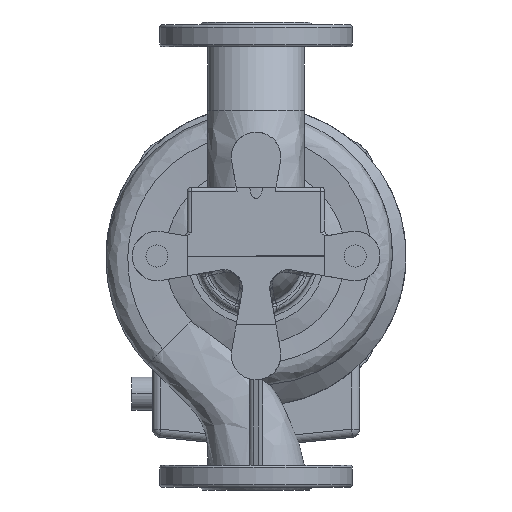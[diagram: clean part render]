
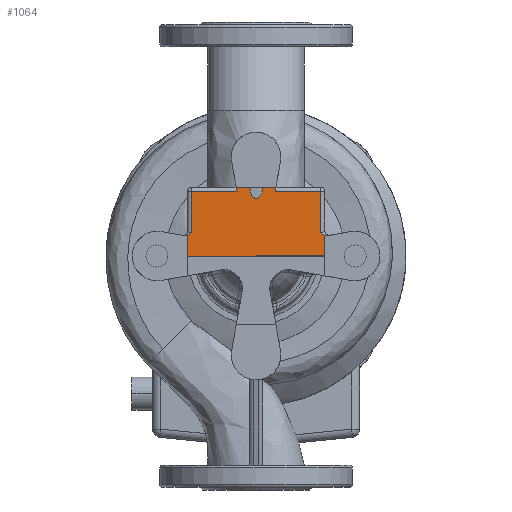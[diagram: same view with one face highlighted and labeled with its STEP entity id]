
A CAD part, front view. The second image highlights one B-rep face of the part: STEP entity #1064.
In plain terms, the highlighted planar face has unit normal (0, -1, 0).
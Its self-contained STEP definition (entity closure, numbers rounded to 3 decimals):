
#1064=ADVANCED_FACE('',(#2581),#2060,.F.);
#2060=PLANE('',#18404);
#2581=FACE_OUTER_BOUND('',#3586,.T.);
#3586=EDGE_LOOP('',(#6729,#6730,#6731,#6732,#6733,#6734,#6735,#6736,#6737,
#6738,#6739,#6740,#6741,#6742));
#5879=B_SPLINE_CURVE_WITH_KNOTS('',3,(#29481,#29482,#29483,#29484,#29485,
#29486,#29487,#29488,#29489,#29490,#29491,#29492,#29493,#29494),
 .UNSPECIFIED.,.F.,.F.,(4,2,2,2,2,2,4),(0.,0.25,0.375,0.5,
0.625,0.75,1.),.UNSPECIFIED.);
#5880=B_SPLINE_CURVE_WITH_KNOTS('',3,(#29501,#29502,#29503,#29504,#29505,
#29506,#29507,#29508,#29509,#29510,#29511,#29512,#29513),.UNSPECIFIED.,
 .F.,.F.,(4,1,2,2,2,2,4),(0.,0.125,0.187,0.25,
0.5,0.75,1.),.UNSPECIFIED.);
#5881=B_SPLINE_CURVE_WITH_KNOTS('',3,(#29521,#29522,#29523,#29524,#29525,
#29526,#29527,#29528,#29529,#29530,#29531,#29532,#29533),.UNSPECIFIED.,
 .F.,.F.,(4,2,2,1,2,2,4),(0.,0.25,0.5,0.625,
0.688,0.75,1.),.UNSPECIFIED.);
#6729=ORIENTED_EDGE('',*,*,#13574,.T.);
#6730=ORIENTED_EDGE('',*,*,#13575,.T.);
#6731=ORIENTED_EDGE('',*,*,#13566,.T.);
#6732=ORIENTED_EDGE('',*,*,#13576,.T.);
#6733=ORIENTED_EDGE('',*,*,#13570,.T.);
#6734=ORIENTED_EDGE('',*,*,#13577,.T.);
#6735=ORIENTED_EDGE('',*,*,#13578,.T.);
#6736=ORIENTED_EDGE('',*,*,#13579,.T.);
#6737=ORIENTED_EDGE('',*,*,#13580,.T.);
#6738=ORIENTED_EDGE('',*,*,#13581,.T.);
#6739=ORIENTED_EDGE('',*,*,#13582,.T.);
#6740=ORIENTED_EDGE('',*,*,#13583,.T.);
#6741=ORIENTED_EDGE('',*,*,#13584,.T.);
#6742=ORIENTED_EDGE('',*,*,#13585,.T.);
#11781=VERTEX_POINT('',#29459);
#11782=VERTEX_POINT('',#29460);
#11783=VERTEX_POINT('',#29462);
#11786=VERTEX_POINT('',#29468);
#11789=VERTEX_POINT('',#29478);
#11790=VERTEX_POINT('',#29479);
#11791=VERTEX_POINT('',#29496);
#11792=VERTEX_POINT('',#29498);
#11793=VERTEX_POINT('',#29500);
#11794=VERTEX_POINT('',#29514);
#11795=VERTEX_POINT('',#29516);
#11796=VERTEX_POINT('',#29518);
#11797=VERTEX_POINT('',#29520);
#11798=VERTEX_POINT('',#29534);
#13566=EDGE_CURVE('',#11783,#11781,#15926,.T.);
#13570=EDGE_CURVE('',#11782,#11786,#15930,.T.);
#13574=EDGE_CURVE('',#11789,#11790,#15933,.T.);
#13575=EDGE_CURVE('',#11790,#11783,#15934,.T.);
#13576=EDGE_CURVE('',#11781,#11782,#5879,.T.);
#13577=EDGE_CURVE('',#11786,#11791,#15935,.T.);
#13578=EDGE_CURVE('',#11791,#11792,#15936,.T.);
#13579=EDGE_CURVE('',#11792,#11793,#15937,.T.);
#13580=EDGE_CURVE('',#11793,#11794,#5880,.T.);
#13581=EDGE_CURVE('',#11794,#11795,#15938,.T.);
#13582=EDGE_CURVE('',#11795,#11796,#15939,.T.);
#13583=EDGE_CURVE('',#11796,#11797,#15940,.T.);
#13584=EDGE_CURVE('',#11797,#11798,#5881,.T.);
#13585=EDGE_CURVE('',#11798,#11789,#15941,.T.);
#15926=LINE('',#29461,#17108);
#15930=LINE('',#29469,#17112);
#15933=LINE('',#29477,#17115);
#15934=LINE('',#29480,#17116);
#15935=LINE('',#29495,#17117);
#15936=LINE('',#29497,#17118);
#15937=LINE('',#29499,#17119);
#15938=LINE('',#29515,#17120);
#15939=LINE('',#29517,#17121);
#15940=LINE('',#29519,#17122);
#15941=LINE('',#29535,#17123);
#17108=VECTOR('',#20897,1.);
#17112=VECTOR('',#20901,1.);
#17115=VECTOR('',#20910,1.);
#17116=VECTOR('',#20911,1.);
#17117=VECTOR('',#20912,1.);
#17118=VECTOR('',#20913,1.);
#17119=VECTOR('',#20914,1.);
#17120=VECTOR('',#20915,1.);
#17121=VECTOR('',#20916,1.);
#17122=VECTOR('',#20917,1.);
#17123=VECTOR('',#20918,1.);
#18404=AXIS2_PLACEMENT_3D('',#29536,#20919,#20920);
#20897=DIRECTION('',(-1.,0.,0.));
#20901=DIRECTION('',(-1.,0.,0.));
#20910=DIRECTION('',(-1.,0.,0.));
#20911=DIRECTION('',(0.174,0.,0.985));
#20912=DIRECTION('',(0.174,0.,-0.985));
#20913=DIRECTION('',(-1.,0.,0.));
#20914=DIRECTION('',(0.,0.,-1.));
#20915=DIRECTION('',(0.,0.,-1.));
#20916=DIRECTION('',(1.,0.,0.));
#20917=DIRECTION('',(0.,0.,1.));
#20918=DIRECTION('',(0.,0.,1.));
#20919=DIRECTION('',(0.,1.,0.));
#20920=DIRECTION('',(0.,0.,-1.));
#29459=CARTESIAN_POINT('',(4.518,-80.,50.));
#29460=CARTESIAN_POINT('',(-4.518,-80.,50.));
#29461=CARTESIAN_POINT('',(-50.,-80.,50.));
#29462=CARTESIAN_POINT('',(14.398,-80.,50.));
#29468=CARTESIAN_POINT('',(-14.398,-80.,50.));
#29469=CARTESIAN_POINT('',(-50.,-80.,50.));
#29477=CARTESIAN_POINT('',(14.398,-80.,47.));
#29478=CARTESIAN_POINT('',(47.,-80.,47.));
#29479=CARTESIAN_POINT('',(13.87,-80.,47.));
#29480=CARTESIAN_POINT('',(14.398,-80.,50.));
#29481=CARTESIAN_POINT('',(4.518,-80.,50.));
#29482=CARTESIAN_POINT('',(4.518,-80.,48.297));
#29483=CARTESIAN_POINT('',(4.251,-80.,46.599));
#29484=CARTESIAN_POINT('',(3.266,-80.,44.255));
#29485=CARTESIAN_POINT('',(2.833,-80.,43.503));
#29486=CARTESIAN_POINT('',(1.65,-80.,42.281));
#29487=CARTESIAN_POINT('',(0.847,-80.,41.815));
#29488=CARTESIAN_POINT('',(-0.859,-80.,41.818));
#29489=CARTESIAN_POINT('',(-1.657,-80.,42.286));
#29490=CARTESIAN_POINT('',(-2.838,-80.,43.51));
#29491=CARTESIAN_POINT('',(-3.266,-80.,44.256));
#29492=CARTESIAN_POINT('',(-4.257,-80.,46.614));
#29493=CARTESIAN_POINT('',(-4.518,-80.,48.299));
#29494=CARTESIAN_POINT('',(-4.518,-80.,50.));
#29495=CARTESIAN_POINT('',(-14.398,-80.,50.));
#29496=CARTESIAN_POINT('',(-13.87,-80.,47.));
#29497=CARTESIAN_POINT('',(-50.,-80.,47.));
#29498=CARTESIAN_POINT('',(-47.,-80.,47.));
#29499=CARTESIAN_POINT('',(-47.,-80.,14.398));
#29500=CARTESIAN_POINT('',(-47.,-80.,16.916));
#29501=CARTESIAN_POINT('',(-47.,-80.,16.916));
#29502=CARTESIAN_POINT('',(-47.159,-80.,16.808));
#29503=CARTESIAN_POINT('',(-47.368,-80.,16.667));
#29504=CARTESIAN_POINT('',(-47.533,-80.,16.557));
#29505=CARTESIAN_POINT('',(-47.633,-80.,16.49));
#29506=CARTESIAN_POINT('',(-47.651,-80.,16.478));
#29507=CARTESIAN_POINT('',(-47.986,-80.,16.258));
#29508=CARTESIAN_POINT('',(-48.185,-80.,16.131));
#29509=CARTESIAN_POINT('',(-48.715,-80.,15.814));
#29510=CARTESIAN_POINT('',(-48.935,-80.,15.691));
#29511=CARTESIAN_POINT('',(-49.477,-80.,15.419));
#29512=CARTESIAN_POINT('',(-49.741,-80.,15.302));
#29513=CARTESIAN_POINT('',(-50.,-80.,15.204));
#29514=CARTESIAN_POINT('',(-50.,-80.,15.204));
#29515=CARTESIAN_POINT('',(-50.,-80.,0.));
#29516=CARTESIAN_POINT('',(-50.,-80.,0.));
#29517=CARTESIAN_POINT('',(-50.,-80.,0.));
#29518=CARTESIAN_POINT('',(50.,-80.,0.));
#29519=CARTESIAN_POINT('',(50.,-80.,0.));
#29520=CARTESIAN_POINT('',(50.,-80.,15.204));
#29521=CARTESIAN_POINT('',(50.,-80.,15.204));
#29522=CARTESIAN_POINT('',(49.742,-80.,15.302));
#29523=CARTESIAN_POINT('',(49.444,-80.,15.435));
#29524=CARTESIAN_POINT('',(48.968,-80.,15.675));
#29525=CARTESIAN_POINT('',(48.669,-80.,15.842));
#29526=CARTESIAN_POINT('',(48.34,-80.,16.038));
#29527=CARTESIAN_POINT('',(48.167,-80.,16.145));
#29528=CARTESIAN_POINT('',(47.979,-80.,16.264));
#29529=CARTESIAN_POINT('',(47.851,-80.,16.347));
#29530=CARTESIAN_POINT('',(47.758,-80.,16.407));
#29531=CARTESIAN_POINT('',(47.558,-80.,16.539));
#29532=CARTESIAN_POINT('',(47.319,-80.,16.7));
#29533=CARTESIAN_POINT('',(47.,-80.,16.916));
#29534=CARTESIAN_POINT('',(47.,-80.,16.916));
#29535=CARTESIAN_POINT('',(47.,-80.,50.));
#29536=CARTESIAN_POINT('',(0.,-80.,0.));
